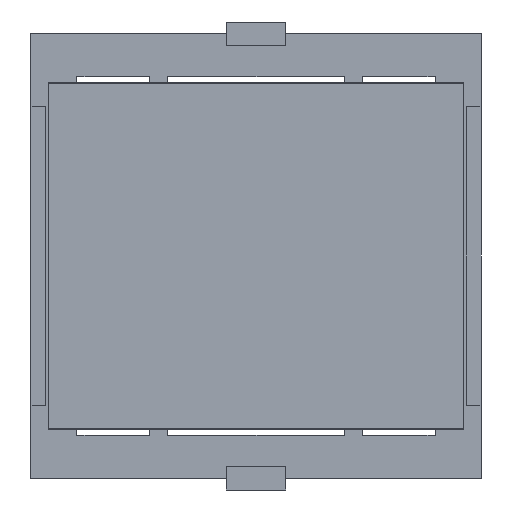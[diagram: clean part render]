
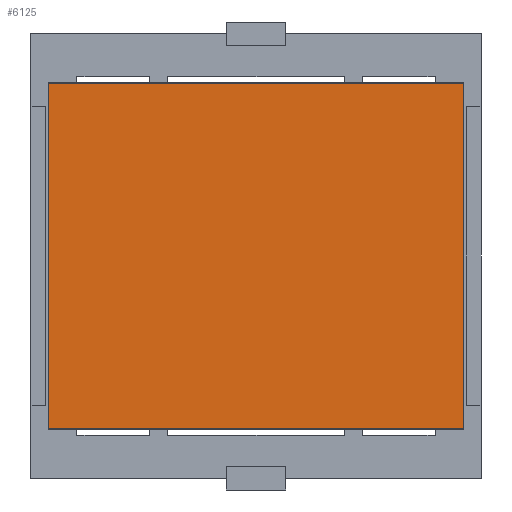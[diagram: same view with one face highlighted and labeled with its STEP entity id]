
A CAD part, front view. The second image highlights one B-rep face of the part: STEP entity #6125.
In plain terms, the highlighted planar face has unit normal (0, -1, 0).
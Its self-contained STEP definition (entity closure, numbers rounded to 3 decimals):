
#24 = AXIS2_PLACEMENT_3D ( 'NONE', #988, #5719, #956 ) ;
#67 = VERTEX_POINT ( 'NONE', #5205 ) ;
#676 = CARTESIAN_POINT ( 'NONE',  ( -15.712, -18.701, 26.207 ) ) ;
#690 = CARTESIAN_POINT ( 'NONE',  ( -15.712, -18.701, -2.749 ) ) ;
#705 = PLANE ( 'NONE',  #24 ) ;
#956 = DIRECTION ( 'NONE',  ( 0., 0., 1. ) ) ;
#988 = CARTESIAN_POINT ( 'NONE',  ( -15.712, -18.701, 26.207 ) ) ;
#1127 = EDGE_CURVE ( 'NONE', #67, #3918, #1269, .T. ) ;
#1222 = EDGE_CURVE ( 'NONE', #3918, #5534, #3031, .T. ) ;
#1269 = LINE ( 'NONE', #676, #4926 ) ;
#1552 = ORIENTED_EDGE ( 'NONE', *, *, #1127, .F. ) ;
#1622 = ORIENTED_EDGE ( 'NONE', *, *, #5708, .F. ) ;
#2325 = EDGE_CURVE ( 'NONE', #5534, #5144, #3618, .T. ) ;
#2624 = VECTOR ( 'NONE', #6126, 1000. ) ;
#3031 = LINE ( 'NONE', #4046, #3157 ) ;
#3092 = CARTESIAN_POINT ( 'NONE',  ( -15.712, -18.701, -2.749 ) ) ;
#3157 = VECTOR ( 'NONE', #6133, 1000. ) ;
#3443 = FACE_OUTER_BOUND ( 'NONE', #6105, .T. ) ;
#3618 = LINE ( 'NONE', #3092, #4675 ) ;
#3918 = VERTEX_POINT ( 'NONE', #6658 ) ;
#4041 = CARTESIAN_POINT ( 'NONE',  ( -15.712, -18.701, -2.749 ) ) ;
#4046 = CARTESIAN_POINT ( 'NONE',  ( 19.086, -18.701, -2.749 ) ) ;
#4078 = LINE ( 'NONE', #4041, #2624 ) ;
#4139 = ORIENTED_EDGE ( 'NONE', *, *, #2325, .F. ) ;
#4429 = DIRECTION ( 'NONE',  ( 1., 0., 0. ) ) ;
#4675 = VECTOR ( 'NONE', #5208, 1000. ) ;
#4926 = VECTOR ( 'NONE', #4429, 1000. ) ;
#5144 = VERTEX_POINT ( 'NONE', #690 ) ;
#5205 = CARTESIAN_POINT ( 'NONE',  ( -15.712, -18.701, 26.207 ) ) ;
#5208 = DIRECTION ( 'NONE',  ( -1., 0., 0. ) ) ;
#5534 = VERTEX_POINT ( 'NONE', #5947 ) ;
#5708 = EDGE_CURVE ( 'NONE', #5144, #67, #4078, .T. ) ;
#5719 = DIRECTION ( 'NONE',  ( 0., 1., 0. ) ) ;
#5947 = CARTESIAN_POINT ( 'NONE',  ( 19.086, -18.701, -2.749 ) ) ;
#6105 = EDGE_LOOP ( 'NONE', ( #1622, #4139, #6895, #1552 ) ) ;
#6125 = ADVANCED_FACE ( 'NONE', ( #3443 ), #705, .F. ) ;
#6126 = DIRECTION ( 'NONE',  ( 0., 0., 1. ) ) ;
#6133 = DIRECTION ( 'NONE',  ( 0., 0., -1. ) ) ;
#6658 = CARTESIAN_POINT ( 'NONE',  ( 19.086, -18.701, 26.207 ) ) ;
#6895 = ORIENTED_EDGE ( 'NONE', *, *, #1222, .F. ) ;
